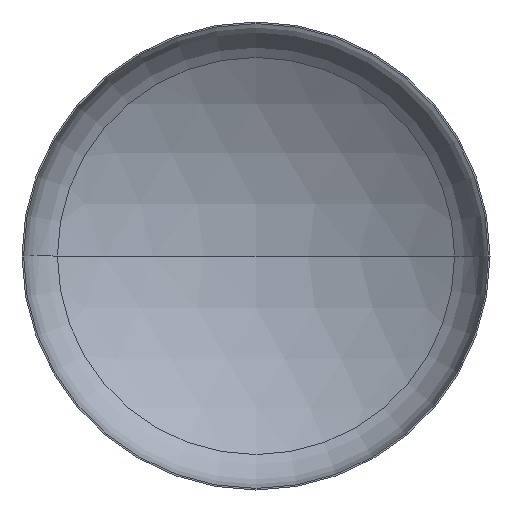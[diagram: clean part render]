
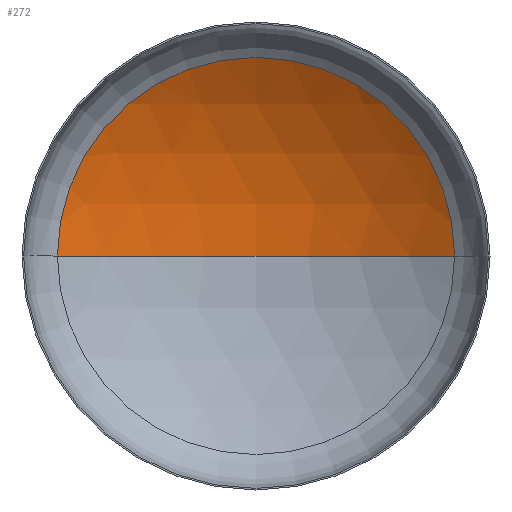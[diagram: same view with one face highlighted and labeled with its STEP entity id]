
A CAD part, front view. The second image highlights one B-rep face of the part: STEP entity #272.
In plain terms, the highlighted spherical face has radius 4800 mm.
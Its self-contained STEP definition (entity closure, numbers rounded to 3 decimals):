
#13 = ORIENTED_EDGE ( 'NONE', *, *, #119, .F. ) ;
#17 = AXIS2_PLACEMENT_3D ( 'NONE', #79, #93, #249 ) ;
#21 = CARTESIAN_POINT ( 'NONE',  ( 0., 1574.791, 0. ) ) ;
#32 = SPHERICAL_SURFACE ( 'NONE', #17, 4800. ) ;
#57 = AXIS2_PLACEMENT_3D ( 'NONE', #154, #157, #122 ) ;
#61 = AXIS2_PLACEMENT_3D ( 'NONE', #248, #166, #163 ) ;
#62 = AXIS2_PLACEMENT_3D ( 'NONE', #112, #129, #132 ) ;
#64 = VERTEX_POINT ( 'NONE', #213 ) ;
#79 = CARTESIAN_POINT ( 'NONE',  ( 0., -3225.209, 0. ) ) ;
#88 = CIRCLE ( 'NONE', #62, 2545.548 ) ;
#93 = DIRECTION ( 'NONE',  ( 0., 0., -1. ) ) ;
#112 = CARTESIAN_POINT ( 'NONE',  ( 0., 844.211, 0. ) ) ;
#115 = EDGE_CURVE ( 'NONE', #178, #64, #88, .T. ) ;
#116 = EDGE_CURVE ( 'NONE', #308, #178, #397, .T. ) ;
#119 = EDGE_CURVE ( 'NONE', #308, #64, #244, .T. ) ;
#122 = DIRECTION ( 'NONE',  ( 1., 0., 0. ) ) ;
#129 = DIRECTION ( 'NONE',  ( 0., -1., 0. ) ) ;
#132 = DIRECTION ( 'NONE',  ( 1., 0., 0. ) ) ;
#150 = EDGE_LOOP ( 'NONE', ( #13, #330, #215 ) ) ;
#154 = CARTESIAN_POINT ( 'NONE',  ( 0., -3225.209, 0. ) ) ;
#157 = DIRECTION ( 'NONE',  ( 0., 0., 1. ) ) ;
#163 = DIRECTION ( 'NONE',  ( -1., 0., 0. ) ) ;
#166 = DIRECTION ( 'NONE',  ( 0., 0., -1. ) ) ;
#178 = VERTEX_POINT ( 'NONE', #209 ) ;
#209 = CARTESIAN_POINT ( 'NONE',  ( 2545.548, 844.211, 0. ) ) ;
#213 = CARTESIAN_POINT ( 'NONE',  ( -2545.548, 844.211, 0. ) ) ;
#215 = ORIENTED_EDGE ( 'NONE', *, *, #115, .T. ) ;
#244 = CIRCLE ( 'NONE', #57, 4800. ) ;
#248 = CARTESIAN_POINT ( 'NONE',  ( 0., -3225.209, 0. ) ) ;
#249 = DIRECTION ( 'NONE',  ( -1., 0., 0. ) ) ;
#272 = ADVANCED_FACE ( 'NONE', ( #368 ), #32, .F. ) ;
#308 = VERTEX_POINT ( 'NONE', #21 ) ;
#330 = ORIENTED_EDGE ( 'NONE', *, *, #116, .T. ) ;
#368 = FACE_OUTER_BOUND ( 'NONE', #150, .T. ) ;
#397 = CIRCLE ( 'NONE', #61, 4800. ) ;
